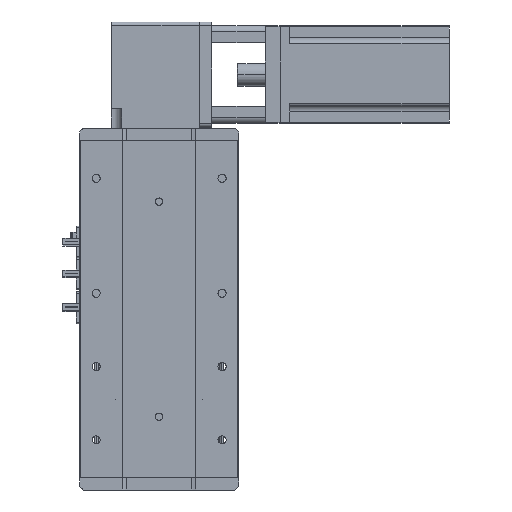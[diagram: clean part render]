
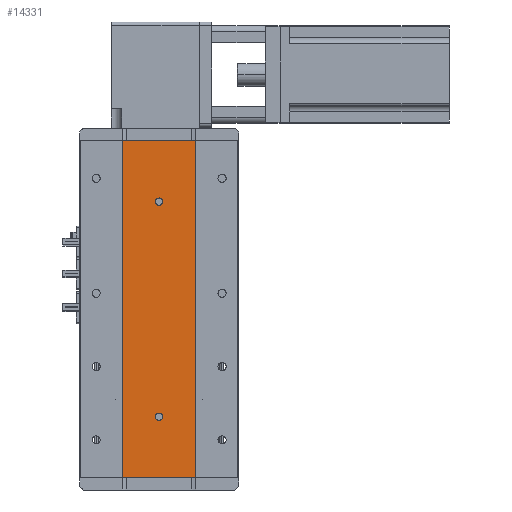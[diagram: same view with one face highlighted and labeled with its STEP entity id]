
A CAD part, left-side view. The second image highlights one B-rep face of the part: STEP entity #14331.
In plain terms, the highlighted planar face has unit normal (-1, 0, 0).
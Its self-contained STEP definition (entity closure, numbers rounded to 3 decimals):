
#51 = FACE_BOUND ( 'NONE', #35387, .T. ) ;
#327 = LINE ( 'NONE', #31764, #18756 ) ;
#1013 = PLANE ( 'NONE',  #9674 ) ;
#1032 = CARTESIAN_POINT ( 'NONE',  ( -24.994, 0., 53. ) ) ;
#3463 = CARTESIAN_POINT ( 'NONE',  ( -24.994, 29.785, 276. ) ) ;
#3584 = VERTEX_POINT ( 'NONE', #25239 ) ;
#4569 = EDGE_CURVE ( 'NONE', #26701, #38379, #327, .T. ) ;
#4656 = CIRCLE ( 'NONE', #7437, 3. ) ;
#5356 = ORIENTED_EDGE ( 'NONE', *, *, #41679, .T. ) ;
#5635 = CARTESIAN_POINT ( 'NONE',  ( -24.994, 29.785, 0. ) ) ;
#5677 = DIRECTION ( 'NONE',  ( 0., -1., 0. ) ) ;
#6893 = EDGE_CURVE ( 'NONE', #32130, #11332, #26588, .T. ) ;
#7437 = AXIS2_PLACEMENT_3D ( 'NONE', #8015, #30826, #11356 ) ;
#7488 = VERTEX_POINT ( 'NONE', #25230 ) ;
#7881 = CARTESIAN_POINT ( 'NONE',  ( -24.994, 29.785, 276. ) ) ;
#8015 = CARTESIAN_POINT ( 'NONE',  ( -24.994, 0., 226. ) ) ;
#8397 = CIRCLE ( 'NONE', #41609, 3. ) ;
#8451 = CARTESIAN_POINT ( 'NONE',  ( -24.994, 29.785, 276. ) ) ;
#8784 = FACE_BOUND ( 'NONE', #36296, .T. ) ;
#9325 = LINE ( 'NONE', #5635, #34294 ) ;
#9674 = AXIS2_PLACEMENT_3D ( 'NONE', #7881, #30697, #11224 ) ;
#10206 = DIRECTION ( 'NONE',  ( -1., 0., 0. ) ) ;
#11224 = DIRECTION ( 'NONE',  ( 0., 0., -1. ) ) ;
#11332 = VERTEX_POINT ( 'NONE', #1032 ) ;
#11356 = DIRECTION ( 'NONE',  ( 0., 0., 1. ) ) ;
#11768 = DIRECTION ( 'NONE',  ( 0., 0., -1. ) ) ;
#12139 = CARTESIAN_POINT ( 'NONE',  ( -24.994, 0., 50. ) ) ;
#12952 = ORIENTED_EDGE ( 'NONE', *, *, #13239, .F. ) ;
#13239 = EDGE_CURVE ( 'NONE', #7488, #20219, #8397, .T. ) ;
#14267 = CARTESIAN_POINT ( 'NONE',  ( -24.994, 0., 226. ) ) ;
#14331 = ADVANCED_FACE ( 'NONE', ( #51, #8784, #26126 ), #1013, .F. ) ;
#14344 = EDGE_CURVE ( 'NONE', #20219, #7488, #4656, .T. ) ;
#15359 = DIRECTION ( 'NONE',  ( 0., 0., 1. ) ) ;
#16191 = CARTESIAN_POINT ( 'NONE',  ( -24.994, -29.785, 276. ) ) ;
#17001 = EDGE_CURVE ( 'NONE', #26701, #23329, #28583, .T. ) ;
#17522 = DIRECTION ( 'NONE',  ( 0., 0., 1. ) ) ;
#17748 = ORIENTED_EDGE ( 'NONE', *, *, #39550, .F. ) ;
#18756 = VECTOR ( 'NONE', #5677, 1000. ) ;
#18914 = DIRECTION ( 'NONE',  ( 0., -1., 0. ) ) ;
#20052 = ORIENTED_EDGE ( 'NONE', *, *, #14344, .F. ) ;
#20219 = VERTEX_POINT ( 'NONE', #38842 ) ;
#21326 = ORIENTED_EDGE ( 'NONE', *, *, #17001, .T. ) ;
#22744 = VECTOR ( 'NONE', #35779, 1000. ) ;
#23157 = CARTESIAN_POINT ( 'NONE',  ( -24.994, 0., 47. ) ) ;
#23329 = VERTEX_POINT ( 'NONE', #24270 ) ;
#24270 = CARTESIAN_POINT ( 'NONE',  ( -24.994, 29.785, 0. ) ) ;
#25230 = CARTESIAN_POINT ( 'NONE',  ( -24.994, 0., 223. ) ) ;
#25239 = CARTESIAN_POINT ( 'NONE',  ( -24.994, -29.785, 0. ) ) ;
#26126 = FACE_OUTER_BOUND ( 'NONE', #38174, .T. ) ;
#26588 = CIRCLE ( 'NONE', #35518, 3. ) ;
#26701 = VERTEX_POINT ( 'NONE', #3463 ) ;
#28333 = CARTESIAN_POINT ( 'NONE',  ( -24.994, -29.785, 276. ) ) ;
#28583 = LINE ( 'NONE', #8451, #37277 ) ;
#29681 = CARTESIAN_POINT ( 'NONE',  ( -24.994, 0., 50. ) ) ;
#30384 = LINE ( 'NONE', #16191, #22744 ) ;
#30697 = DIRECTION ( 'NONE',  ( 1., 0., 0. ) ) ;
#30826 = DIRECTION ( 'NONE',  ( -1., 0., 0. ) ) ;
#31764 = CARTESIAN_POINT ( 'NONE',  ( -24.994, 29.785, 276. ) ) ;
#32130 = VERTEX_POINT ( 'NONE', #23157 ) ;
#32823 = AXIS2_PLACEMENT_3D ( 'NONE', #12139, #34929, #15359 ) ;
#32943 = DIRECTION ( 'NONE',  ( 0., 0., 1. ) ) ;
#34294 = VECTOR ( 'NONE', #18914, 1000. ) ;
#34929 = DIRECTION ( 'NONE',  ( -1., 0., 0. ) ) ;
#35242 = ORIENTED_EDGE ( 'NONE', *, *, #36708, .F. ) ;
#35387 = EDGE_LOOP ( 'NONE', ( #20052, #12952 ) ) ;
#35518 = AXIS2_PLACEMENT_3D ( 'NONE', #29681, #10206, #32943 ) ;
#35779 = DIRECTION ( 'NONE',  ( 0., 0., -1. ) ) ;
#36296 = EDGE_LOOP ( 'NONE', ( #35242, #40217 ) ) ;
#36708 = EDGE_CURVE ( 'NONE', #11332, #32130, #38776, .T. ) ;
#37068 = DIRECTION ( 'NONE',  ( -1., 0., 0. ) ) ;
#37277 = VECTOR ( 'NONE', #11768, 1000. ) ;
#38174 = EDGE_LOOP ( 'NONE', ( #5356, #17748, #41967, #21326 ) ) ;
#38379 = VERTEX_POINT ( 'NONE', #28333 ) ;
#38776 = CIRCLE ( 'NONE', #32823, 3. ) ;
#38842 = CARTESIAN_POINT ( 'NONE',  ( -24.994, 0., 229. ) ) ;
#39550 = EDGE_CURVE ( 'NONE', #38379, #3584, #30384, .T. ) ;
#40217 = ORIENTED_EDGE ( 'NONE', *, *, #6893, .F. ) ;
#41609 = AXIS2_PLACEMENT_3D ( 'NONE', #14267, #37068, #17522 ) ;
#41679 = EDGE_CURVE ( 'NONE', #23329, #3584, #9325, .T. ) ;
#41967 = ORIENTED_EDGE ( 'NONE', *, *, #4569, .F. ) ;
